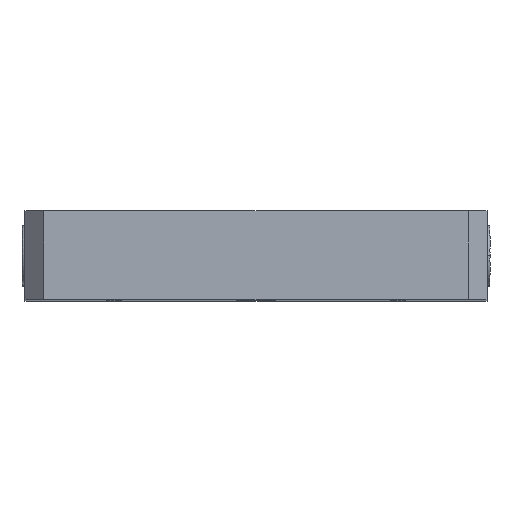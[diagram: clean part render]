
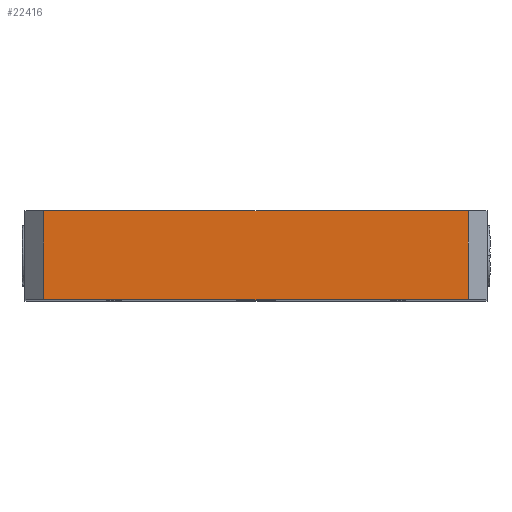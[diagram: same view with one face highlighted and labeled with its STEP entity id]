
A CAD part, top view. The second image highlights one B-rep face of the part: STEP entity #22416.
In plain terms, the highlighted planar face has unit normal (0, 0, 1) as drawn and (-1, 0, 0) by its records, which use the part's own axes.
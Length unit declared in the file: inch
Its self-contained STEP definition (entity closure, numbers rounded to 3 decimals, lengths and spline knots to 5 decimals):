
#729 = FACE_OUTER_BOUND ( 'NONE', #36032, .T. ) ;
#1498 = DIRECTION ( 'NONE',  ( 0., 0., -1. ) ) ;
#1676 = CARTESIAN_POINT ( 'NONE',  ( -6.65354, 1.1811, -2.82087 ) ) ;
#3383 = CARTESIAN_POINT ( 'NONE',  ( -6.65354, 0., -2.82087 ) ) ;
#3501 = VECTOR ( 'NONE', #20510, 39.37008 ) ;
#3757 = CARTESIAN_POINT ( 'NONE',  ( -6.65354, 1.1811, 2.82087 ) ) ;
#4479 = LINE ( 'NONE', #1676, #3501 ) ;
#6759 = VERTEX_POINT ( 'NONE', #29616 ) ;
#6939 = CARTESIAN_POINT ( 'NONE',  ( -6.65354, 0., -3.07087 ) ) ;
#10683 = DIRECTION ( 'NONE',  ( 0., 1., 0. ) ) ;
#11311 = VERTEX_POINT ( 'NONE', #20347 ) ;
#12031 = VECTOR ( 'NONE', #22999, 39.37008 ) ;
#13705 = VECTOR ( 'NONE', #10683, 39.37008 ) ;
#16727 = EDGE_CURVE ( 'NONE', #11311, #22814, #4479, .T. ) ;
#20232 = DIRECTION ( 'NONE',  ( 1., 0., 0. ) ) ;
#20347 = CARTESIAN_POINT ( 'NONE',  ( -6.65354, 1.1811, -2.82087 ) ) ;
#20510 = DIRECTION ( 'NONE',  ( 0., -1., 0. ) ) ;
#20836 = AXIS2_PLACEMENT_3D ( 'NONE', #29362, #20232, #1498 ) ;
#21339 = ORIENTED_EDGE ( 'NONE', *, *, #30031, .T. ) ;
#21646 = EDGE_CURVE ( 'NONE', #11311, #6759, #27685, .T. ) ;
#21709 = ORIENTED_EDGE ( 'NONE', *, *, #21646, .F. ) ;
#22350 = VECTOR ( 'NONE', #28794, 39.37008 ) ;
#22416 = ADVANCED_FACE ( 'NONE', ( #729 ), #35764, .F. ) ;
#22814 = VERTEX_POINT ( 'NONE', #3383 ) ;
#22999 = DIRECTION ( 'NONE',  ( 0., 0., 1. ) ) ;
#24055 = ORIENTED_EDGE ( 'NONE', *, *, #24505, .T. ) ;
#24505 = EDGE_CURVE ( 'NONE', #22814, #32745, #38942, .T. ) ;
#27685 = LINE ( 'NONE', #32402, #12031 ) ;
#28794 = DIRECTION ( 'NONE',  ( 0., 0., 1. ) ) ;
#29362 = CARTESIAN_POINT ( 'NONE',  ( -6.65354, 1.1811, -3.07087 ) ) ;
#29616 = CARTESIAN_POINT ( 'NONE',  ( -6.65354, 1.1811, 2.82087 ) ) ;
#30031 = EDGE_CURVE ( 'NONE', #32745, #6759, #38646, .T. ) ;
#30879 = ORIENTED_EDGE ( 'NONE', *, *, #16727, .T. ) ;
#32402 = CARTESIAN_POINT ( 'NONE',  ( -6.65354, 1.1811, -3.07087 ) ) ;
#32745 = VERTEX_POINT ( 'NONE', #33110 ) ;
#33110 = CARTESIAN_POINT ( 'NONE',  ( -6.65354, 0., 2.82087 ) ) ;
#35764 = PLANE ( 'NONE',  #20836 ) ;
#36032 = EDGE_LOOP ( 'NONE', ( #21709, #30879, #24055, #21339 ) ) ;
#38646 = LINE ( 'NONE', #3757, #13705 ) ;
#38942 = LINE ( 'NONE', #6939, #22350 ) ;
